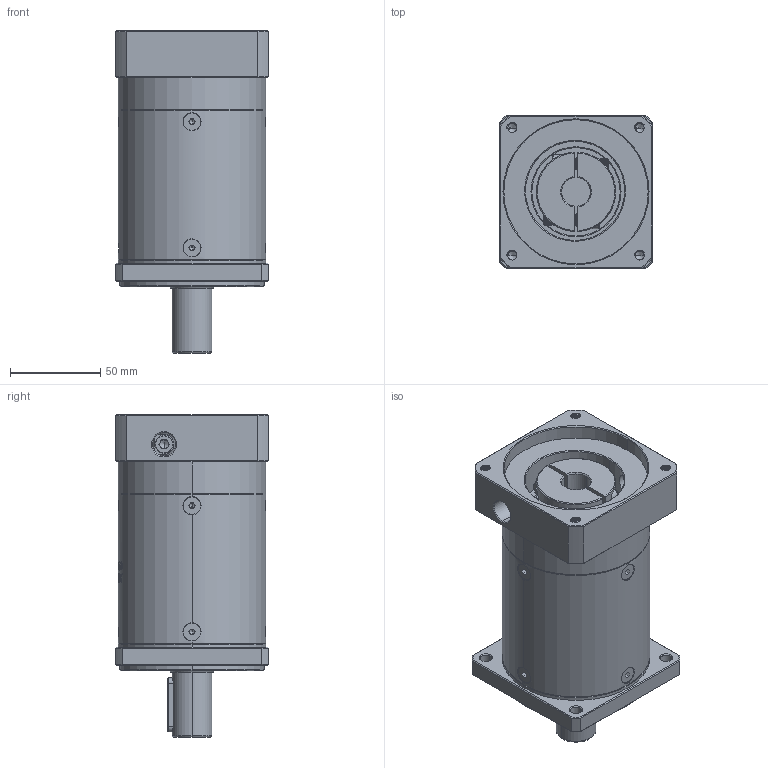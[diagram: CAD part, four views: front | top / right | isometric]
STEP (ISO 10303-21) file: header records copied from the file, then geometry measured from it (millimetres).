
FILE_DESCRIPTION (( 'STEP AP214' ), '1' );
FILE_NAME ('ZF080-D22-L3-P2-16-80-100-M6.step', '2023-08-19T05:33:33', ( '' ), ( '' ), 'SwSTEP 2.0', 'SolidWorks 2016', '' );
FILE_SCHEMA (( 'AUTOMOTIVE_DESIGN' ));
Length unit declared in the file: millimetre
Products named in the file (1): ZF080-D22-L3-P2-16-80-100-M6
Bounding box: 85 x 85 x 179 mm (x, y, z)
Volume: 744269.2 mm3; surface area: 99132.5 mm2
Topology: 13 solids, 13 shells, 2230 faces, 5833 edges, 3702 vertices
Faces by surface type: plane 1071, bspline 394, cylinder 390, cone 338, torus 37
Entity records: 119052 total; most frequent: CARTESIAN_POINT 44749, ORIENTED_EDGE 11606, DIRECTION 8605, EDGE_CURVE 5803, VERTEX_POINT 3702, LINE 3087, VECTOR 3087, AXIS2_PLACEMENT_3D 2759
